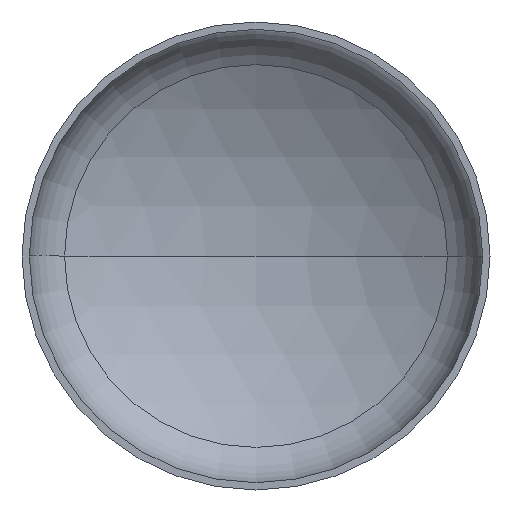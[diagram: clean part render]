
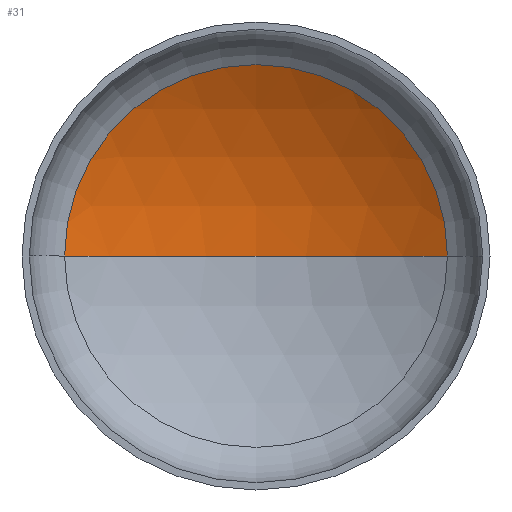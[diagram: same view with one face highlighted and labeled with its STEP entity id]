
A CAD part, front view. The second image highlights one B-rep face of the part: STEP entity #31.
In plain terms, the highlighted spherical face has radius 6000 mm.
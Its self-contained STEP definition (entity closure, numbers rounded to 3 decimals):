
#5 = CARTESIAN_POINT ( 'NONE',  ( 0., -4088.952, 0. ) ) ;
#30 = ORIENTED_EDGE ( 'NONE', *, *, #89, .T. ) ;
#31 = ADVANCED_FACE ( 'NONE', ( #388 ), #143, .F. ) ;
#35 = AXIS2_PLACEMENT_3D ( 'NONE', #5, #288, #214 ) ;
#37 = AXIS2_PLACEMENT_3D ( 'NONE', #218, #222, #199 ) ;
#38 = ORIENTED_EDGE ( 'NONE', *, *, #95, .T. ) ;
#44 = AXIS2_PLACEMENT_3D ( 'NONE', #286, #188, #208 ) ;
#64 = CIRCLE ( 'NONE', #44, 3067.492 ) ;
#66 = AXIS2_PLACEMENT_3D ( 'NONE', #372, #283, #285 ) ;
#89 = EDGE_CURVE ( 'NONE', #122, #110, #64, .T. ) ;
#94 = ORIENTED_EDGE ( 'NONE', *, *, #96, .F. ) ;
#95 = EDGE_CURVE ( 'NONE', #121, #122, #316, .T. ) ;
#96 = EDGE_CURVE ( 'NONE', #121, #110, #259, .T. ) ;
#110 = VERTEX_POINT ( 'NONE', #227 ) ;
#111 = EDGE_LOOP ( 'NONE', ( #94, #38, #30 ) ) ;
#121 = VERTEX_POINT ( 'NONE', #260 ) ;
#122 = VERTEX_POINT ( 'NONE', #186 ) ;
#143 = SPHERICAL_SURFACE ( 'NONE', #66, 6000. ) ;
#186 = CARTESIAN_POINT ( 'NONE',  ( 3067.492, 1067.645, 0. ) ) ;
#188 = DIRECTION ( 'NONE',  ( 0., -1., 0. ) ) ;
#199 = DIRECTION ( 'NONE',  ( -1., 0., 0. ) ) ;
#208 = DIRECTION ( 'NONE',  ( 1., 0., 0. ) ) ;
#214 = DIRECTION ( 'NONE',  ( 1., 0., 0. ) ) ;
#218 = CARTESIAN_POINT ( 'NONE',  ( 0., -4088.952, 0. ) ) ;
#222 = DIRECTION ( 'NONE',  ( 0., 0., -1. ) ) ;
#227 = CARTESIAN_POINT ( 'NONE',  ( -3067.492, 1067.645, 0. ) ) ;
#259 = CIRCLE ( 'NONE', #35, 6000. ) ;
#260 = CARTESIAN_POINT ( 'NONE',  ( 0., 1911.048, 0. ) ) ;
#283 = DIRECTION ( 'NONE',  ( 0., 0., -1. ) ) ;
#285 = DIRECTION ( 'NONE',  ( -1., 0., 0. ) ) ;
#286 = CARTESIAN_POINT ( 'NONE',  ( 0., 1067.645, 0. ) ) ;
#288 = DIRECTION ( 'NONE',  ( 0., 0., 1. ) ) ;
#316 = CIRCLE ( 'NONE', #37, 6000. ) ;
#372 = CARTESIAN_POINT ( 'NONE',  ( 0., -4088.952, 0. ) ) ;
#388 = FACE_OUTER_BOUND ( 'NONE', #111, .T. ) ;
